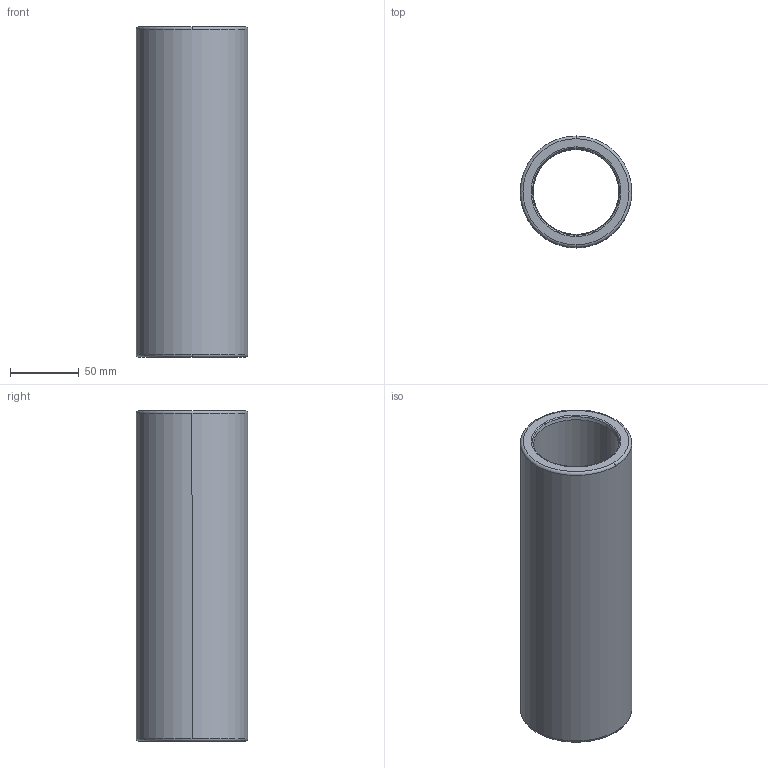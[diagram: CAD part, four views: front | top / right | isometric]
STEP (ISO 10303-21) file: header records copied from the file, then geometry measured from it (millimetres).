
FILE_DESCRIPTION((''),'2;1');
FILE_NAME('B30_050_240.stp','2009-01-12T10:59:01',(''),(''),'Mechanical Desktop 2009','Mechanical Desktop 2009',', , ');
FILE_SCHEMA(('CONFIG_CONTROL_DESIGN'));
Length unit declared in the file: millimetre
Products named in the file (2): Product; blmdl1
Assembly tree (1 placements, depth 2):
  Product
    blmdl1
Bounding box: 80.98 x 80.98 x 240 mm (x, y, z)
Volume: 511576.8 mm3; surface area: 111259 mm2
Topology: 1 solids, 1 shells, 18 faces, 48 edges, 32 vertices
Faces by surface type: torus 8, cylinder 4, cone 4, plane 2
Entity records: 705 total; most frequent: DIRECTION 128, CARTESIAN_POINT 100, ORIENTED_EDGE 96, AXIS2_PLACEMENT_3D 60, EDGE_CURVE 48, CIRCLE 40, VERTEX_POINT 32, EDGE_LOOP 20
